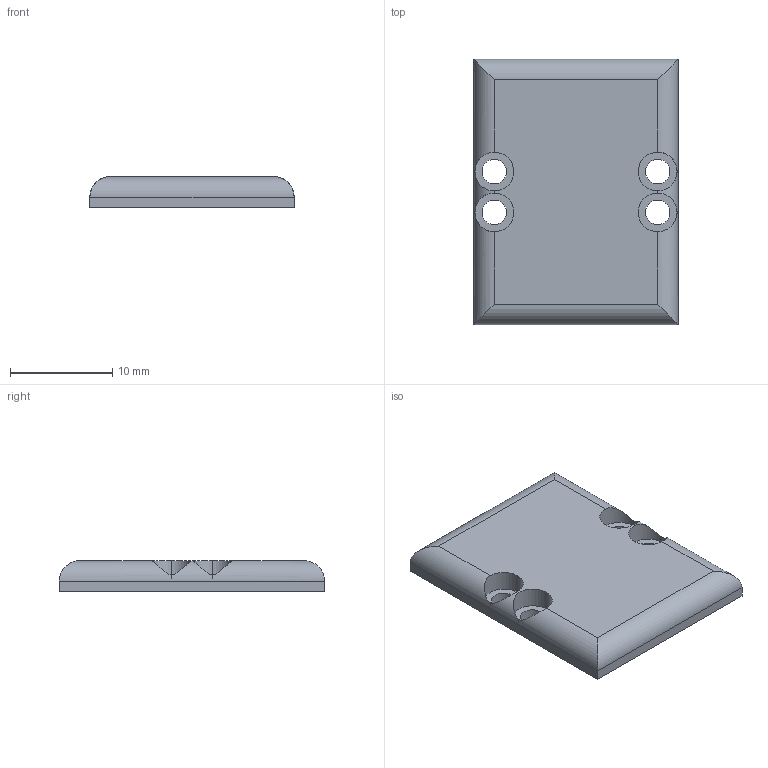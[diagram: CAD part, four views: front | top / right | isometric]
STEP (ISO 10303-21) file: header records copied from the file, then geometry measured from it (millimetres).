
FILE_DESCRIPTION (( 'STEP AP214' ), '1' );
FILE_NAME ('motor_connect.STEP', '2026-09-17T09:58:28', ( '' ), ( '' ), 'SwSTEP 2.0', 'SolidWorks 2024', '' );
FILE_SCHEMA (( 'AUTOMOTIVE_DESIGN' ));
Length unit declared in the file: millimetre
Products named in the file (1): motor_connect
Bounding box: 20 x 26 x 3 mm (x, y, z)
Volume: 1381.3 mm3; surface area: 1305.5 mm2
Topology: 1 solids, 1 shells, 30 faces, 80 edges, 52 vertices
Faces by surface type: cylinder 20, plane 10
Entity records: 1095 total; most frequent: CARTESIAN_POINT 303, DIRECTION 162, ORIENTED_EDGE 160, EDGE_CURVE 80, AXIS2_PLACEMENT_3D 63, VERTEX_POINT 52, EDGE_LOOP 38, VECTOR 36
